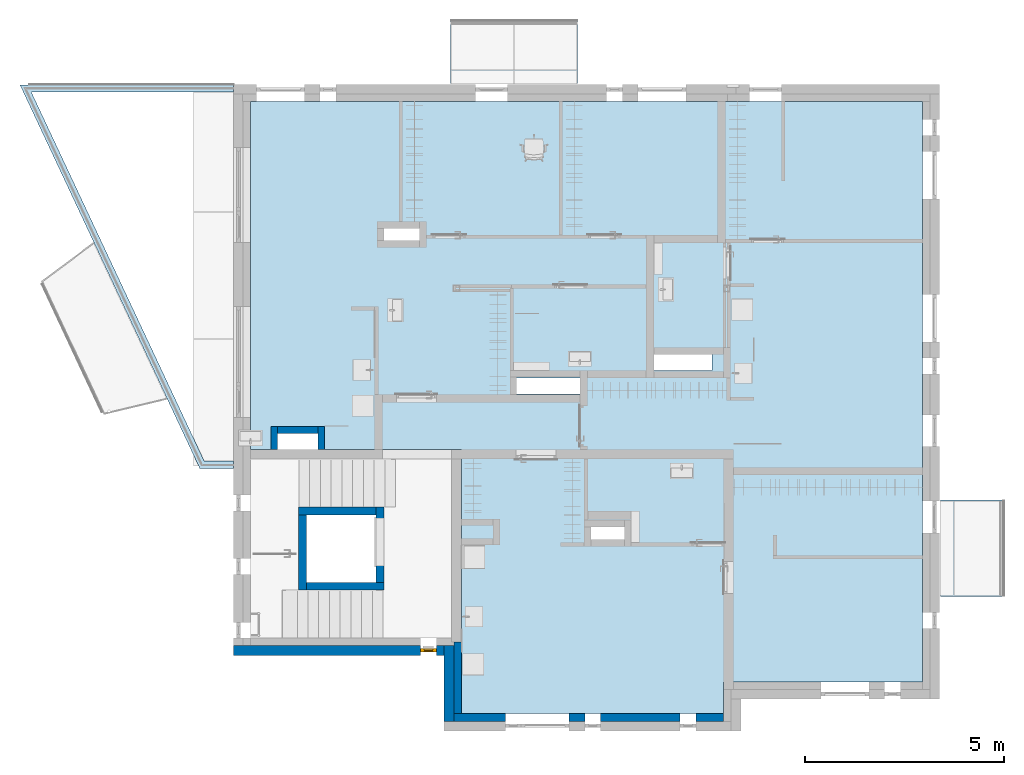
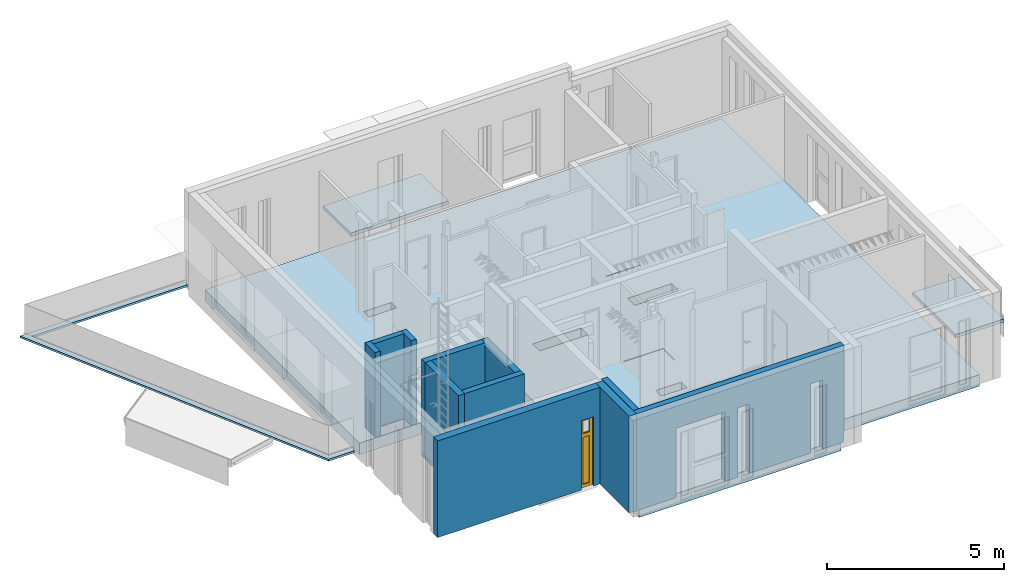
# One storey, part 2 of 42: 11 walls, 4 slabs, 1 window, 12 openings, 1 element without a shape of its own.
"""IFC2X3 building model written with IfcOpenShell, lengths in millimetres."""

from ifc_helpers import new_model, entity, si_unit, converted_unit, direction, frame, frame_2d, origin, origin_2d_with_axis, place, context, subcontext, project, spatial, polyline, rectangle, outline, extrude, faceted_brep, source, transform, mapped, material, material_list, layer, layer_set, layer_usage, type_object, type_shapes, element, fill, aggregate, save


model = new_model("IFC2X3")

# Units and contexts
model_context = context("Model", 3, precision=0.01, world=origin(), true_north=direction((6.123233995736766e-17, 1.0)))
plan_context = context("Plan", 3, precision=0.01, world=origin(), true_north=direction((6.123233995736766e-17, 1.0)))
body_context = subcontext(model_context, "Body", "Model", "MODEL_VIEW")
ifc_project = project(units=[si_unit("LENGTHUNIT", "METRE", prefix="MILLI"), converted_unit("PLANEANGLEUNIT", "DEGREE", entity("IfcPlaneAngleMeasure", 0.017453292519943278), si_unit("PLANEANGLEUNIT", "RADIAN"), dimensions=[0, 0, 0, 0, 0, 0, 0]), si_unit("AREAUNIT", "SQUARE_METRE")], contexts=[model_context, plan_context])

# Site, building, storey
site_placement = place(None, origin())
site = spatial("IfcSite", under=ifc_project, at=site_placement, Name="Default", CompositionType="ELEMENT")
building_placement = place(site_placement, origin())
building = spatial("IfcBuilding", under=site, at=building_placement, CompositionType="ELEMENT")
storey_placement = place(building_placement, frame((0.0, 0.0, 9465.000076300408)))
storey = spatial("IfcBuildingStorey", under=building, at=storey_placement, Name="4K", CompositionType="ELEMENT", Elevation=9465.000076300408)

# Slab, openings
ifc_material_1 = material(Name="_K. Betoon. Armeeritud. Kohtvalu")
ifc_layer_1 = layer(ifc_material_1, 80.0)
ifc_material_2 = material(Name="_K. Soojustus. Mineraalvill")
ifc_layer_2 = layer(ifc_material_2, 30.0)
ifc_material_3 = material(Name="_K. Soojustus. EPS")
ifc_layer_3 = layer(ifc_material_3, 25.0)
ifc_material_4 = material(Name="_K. Betoon. Armeeritud. Monteeritav")
ifc_layer_4 = layer(ifc_material_4, 265.0)
ifc_layer_set_1 = layer_set([ifc_layer_1, ifc_layer_2, ifc_layer_3, ifc_layer_4], Name="Floor:VL-01-A")
ifc_layer_usage_1 = layer_usage(ifc_layer_set_1, "AXIS3", "POSITIVE", 0.0)
slab_type_1 = type_object("IfcSlabType", Name="Floor:VL-01-A", PredefinedType="FLOOR", material=ifc_layer_set_1)
slab_1_placement = place(storey_placement, frame((-0.007990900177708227, 0.0, -420.0)))
slab_1 = element("IfcSlab", 1, at=slab_1_placement, inside=storey, type_object=slab_type_1, material=ifc_layer_usage_1, Name="Floor:VL-01-A", ObjectType="Floor:VL-01-A", PredefinedType="FLOOR", context=body_context, shape_type="SweptSolid", body=[
    extrude(outline(polyline([(-8450.003995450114, 7700.0), (-8450.003995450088, -6900.0), (-3450.003995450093, -6900.0), (-3450.0039954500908, -7700.0), (3144.9981407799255, -7700.0), (3144.9981407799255, -1055.0000405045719), (8450.003995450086, -1055.0000405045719), (8450.003995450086, 7700.0), (-8450.003995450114, 7700.0)])), frame((8450.003995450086, 7700.0, 400.0), z_axis=(0.0, 0.0, -1.0), x_axis=(-1.0, 0.0, 0.0)), (0.0, 0.0, 1.0), 400.0),
])
opening_1_placement = place(slab_1_placement, origin())
element("IfcOpeningElement", 2, at=opening_1_placement, cuts=slab_1, Name="Floor:VL-01-A", ObjectType="Opening", context=body_context, shape_type="SweptSolid", body=[
    extrude(rectangle(XDim=400.0, YDim=1010.0, at=origin_2d_with_axis()), frame((1185.0079909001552, 6850.0, 0.0), z_axis=(0.0, 0.0, 1.0), x_axis=(0.0, 1.0, 0.0)), (0.0, 0.0, 1.0), 400.0),
])
opening_2_placement = place(slab_1_placement, origin())
element("IfcOpeningElement", 3, at=opening_2_placement, cuts=slab_1, Name="Floor:VL-01-A", ObjectType="Opening", context=body_context, shape_type="SweptSolid", body=[
    extrude(rectangle(XDim=319.99999999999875, YDim=839.9999999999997, at=origin_2d_with_axis()), frame((8980.00799090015, 4540.0, 0.0), z_axis=(0.0, 0.0, 1.0), x_axis=(0.0, 1.0, 0.0)), (0.0, 0.0, 1.0), 400.0),
])
opening_3_placement = place(slab_1_placement, origin())
element("IfcOpeningElement", 4, at=opening_3_placement, cuts=slab_1, Name="Floor:VL-01-A", ObjectType="Opening", context=body_context, shape_type="SweptSolid", body=[
    extrude(rectangle(XDim=400.0, YDim=1589.999999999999, at=frame_2d((0.0, 5.684341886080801e-13), x_axis=(1.0, 0.0))), frame((7485.00799090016, 8240.0, 0.0), z_axis=(0.0, 0.0, 1.0), x_axis=(0.0, 1.0, 0.0)), (0.0, 0.0, 1.0), 400.0),
])
opening_4_placement = place(slab_1_placement, origin())
element("IfcOpeningElement", 5, at=opening_4_placement, cuts=slab_1, Name="Floor:VL-01-A", ObjectType="Opening", context=body_context, shape_type="SweptSolid", body=[
    extrude(rectangle(XDim=400.0, YDim=1449.9999999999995, at=origin_2d_with_axis()), frame((10875.00799090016, 8840.0, 0.0), z_axis=(0.0, 0.0, 1.0), x_axis=(0.0, 1.0, 0.0)), (0.0, 0.0, 1.0), 400.0),
])
opening_5_placement = place(slab_1_placement, origin())
element("IfcOpeningElement", 6, at=opening_5_placement, cuts=slab_1, Name="Floor:VL-01-A", ObjectType="Opening", context=body_context, shape_type="SweptSolid", body=[
    extrude(rectangle(XDim=310.000000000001, YDim=900.0000000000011, at=frame_2d((1.0942358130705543e-12, 0.0), x_axis=(1.0, 0.0))), frame((3800.007990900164, 12055.0, 0.0), z_axis=(0.0, 0.0, 1.0), x_axis=(0.0, 1.0, 0.0)), (0.0, 0.0, 1.0), 400.0),
])
opening_6_placement = place(slab_1_placement, frame((0.007990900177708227, 0.0, 400.0)))
element("IfcOpeningElement", 7, at=opening_6_placement, cuts=slab_1, Name="Floor:VL-01-A", ObjectType="Opening", context=body_context, shape_type="SweptSolid", body=[
    extrude(outline(polyline([(-465.4999999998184, -6.916666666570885), (1246.4999999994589, -6.916666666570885), (-315.49999999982, 6.916666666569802), (-465.4999999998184, 6.916666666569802), (-465.4999999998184, -6.916666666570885)])), frame((10615.499999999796, 9210.0, -6.916666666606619), z_axis=(0.0, 1.0, 0.0), x_axis=(1.0, 0.0, 0.0)), (0.0, 0.0, 1.0), 1079.9999999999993),
])
opening_7_placement = place(slab_1_placement, frame((0.007990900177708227, 0.0, 400.0)))
element("IfcOpeningElement", 8, at=opening_7_placement, cuts=slab_1, Name="Floor:VL-01-A", ObjectType="Opening", context=body_context, shape_type="SweptSolid", body=[
    extrude(outline(polyline([(-361.9999898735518, -6.916666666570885), (935.999969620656, -6.916666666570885), (-211.9999898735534, 6.916666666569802), (-361.9999898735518, 6.916666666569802), (-361.9999898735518, -6.916666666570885)])), frame((8483.0, 6037.9999696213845, -6.916666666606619), z_axis=(1.0, 0.0, 0.0), x_axis=(0.0, -1.0, 0.0)), (0.0, 0.0, 1.0), 1299.999999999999),
])

# Roof, slab
ifc_material_5 = material(Name="_K. Katusekate. Rullmaterjal. PVC(1)")
ifc_layer_5 = layer(ifc_material_5, 2.5)
ifc_layer_6 = layer(ifc_material_1, 65.0)
ifc_layer_set_2 = layer_set([ifc_layer_5, ifc_layer_6], Name="Basic Roof:KL-02 2")
roof_placement = place(storey_placement, frame((-5802.7981675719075, 6174.999959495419, 84.9997253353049)))
roof = element("IfcRoof", 9, at=roof_placement, inside=storey, material=ifc_layer_set_2, Name="Basic Roof:KL-02 2", ObjectType="Basic Roof:KL-02 2", ShapeType="NOTDEFINED")
type_product = type_object("IfcTypeProduct", Name="Basic Roof:KL-02 2")
slab_2_placement = place(roof_placement, origin())
slab_2 = element("IfcSlab", 10, at=slab_2_placement, type_object=type_product, material=ifc_layer_set_2, Name="Basic Roof:KL-02 2", ObjectType="Basic Roof:KL-02 2", PredefinedType="ROOF", context=body_context, shape_type="SweptSolid", body=[
    extrude(outline(polyline([(2686.399083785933, -4822.5000202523), (2686.3990837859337, -4642.500020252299), (1949.1138992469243, -4642.500020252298), (-2403.2298670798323, 4642.5000202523), (2686.3990837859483, 4642.500020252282), (2686.399083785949, 4822.500020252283), (-2686.399083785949, 4822.500020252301), (1834.694682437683, -4822.500020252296), (2686.399083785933, -4822.5000202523)])), frame((2686.399083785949, 4822.5000202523, 0.0)), (0.0, 0.0, 1.0), 67.49999999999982),
])
aggregate(roof, [slab_2])

# Slabs
slab_type_2 = type_object("IfcSlabType", Name="HR_Slab_Balcony_v3:Default", PredefinedType="FLOOR", material=ifc_material_4)
slab_3_placement = place(storey_placement, frame((0.0, 0.0, -225.50023803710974)))
element("IfcSlab", 11, at=slab_3_placement, inside=storey, type_object=slab_type_2, Name="HR_Slab_Balcony_v3:Default", ObjectType="HR_Slab_Balcony_v3:Default", PredefinedType="FLOOR", context=body_context, shape_type="SweptSolid", body=[
    extrude(outline(polyline([(-636.2215697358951, 62.61096566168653), (-637.2171002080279, -42.38431479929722), (-604.7185610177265, -42.69245518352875), (-594.6241980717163, -32.78771708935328), (-579.6248722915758, -32.92993572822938), (-569.7201341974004, -43.02429867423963), (944.7117920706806, -57.38364057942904), (945.8495411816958, 62.610965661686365), (865.8531370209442, 63.3694650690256), (865.7119652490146, 62.61096566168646), (-636.2215697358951, 62.61096566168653)])), frame((5031.41658844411, 16795.213397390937, 48.424019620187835), z_axis=(-1.0, 0.0, 0.0), x_axis=(0.0, -0.9999550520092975, 0.00948124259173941)), (0.0, 0.0, -1.0), 3194.999999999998),
])
slab_4_placement = place(storey_placement, frame((0.0, 0.0, -225.50023803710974)))
element("IfcSlab", 12, at=slab_4_placement, inside=storey, type_object=slab_type_2, Name="HR_Slab_Balcony_v3:Default", ObjectType="HR_Slab_Balcony_v3:Default", PredefinedType="FLOOR", context=body_context, shape_type="SweptSolid", body=[
    extrude(outline(polyline([(-945.2133973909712, -71.57598037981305), (-865.2133973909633, -71.57598037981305), (-865.0794234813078, -70.81617658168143), (636.7866026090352, -56.575980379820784), (636.7866026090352, 48.42401962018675), (604.2866026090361, 48.42401962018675), (594.2866026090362, 38.42401962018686), (579.2866026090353, 38.42401962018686), (569.2866026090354, 48.42401962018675), (-945.2133973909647, 48.42401962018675), (-945.2133973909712, -71.57598037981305)])), frame((18295.213397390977, 2952.68658823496, 48.424019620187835), z_axis=(0.0, 1.0, 0.0), x_axis=(1.0, 0.0, 0.0)), (0.0, 0.0, 1.0), 2418.0000000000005),
])

# Walls
ifc_material_6 = material(Name="_K. Väisviimistlus. Krohv. Valge")
ifc_layer_7 = layer(ifc_material_6, 5.0)
ifc_material_7 = material(Name="_K. Müüritis. Väikeplokk. Betoon-õõnesplokk")
ifc_layer_8 = layer(ifc_material_7, 190.00000000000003)
ifc_layer_9 = layer(ifc_material_6, 5.0)
ifc_layer_set_3 = layer_set([ifc_layer_7, ifc_layer_8, ifc_layer_9], Name="Basic Wall:SS-01. 190")
ifc_layer_usage_2 = layer_usage(ifc_layer_set_3, "AXIS2", "NEGATIVE", 100.00000000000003)
wall_type_1 = type_object("IfcWallType", Name="Basic Wall:SS-01. 190", PredefinedType="STANDARD", material=ifc_layer_set_3)
wall_1_placement = place(storey_placement, frame((1199.993534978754, 5099.998433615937, 0.0)))
element("IfcWallStandardCase", 13, at=wall_1_placement, inside=storey, type_object=wall_type_1, material=ifc_layer_usage_2, Name="Basic Wall:SS-01. 190", ObjectType="Basic Wall:SS-01. 190", context=body_context, shape_type="SweptSolid", body=[
    extrude(rectangle(XDim=1949.9999999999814, YDim=200.0, at=frame_2d((974.9999999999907, 0.0), x_axis=(-1.0, 0.0))), origin(), (0.0, 0.0, 1.0), 3345.9999999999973),
])
ifc_layer_usage_3 = layer_usage(ifc_layer_set_3, "AXIS2", "NEGATIVE", 100.00000000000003)
wall_2_placement = place(storey_placement, frame((1299.993534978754, 3109.993855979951, 0.0), z_axis=(0.0, 0.0, 1.0), x_axis=(0.0, 1.0, 0.0)))
element("IfcWallStandardCase", 14, at=wall_2_placement, inside=storey, type_object=wall_type_1, material=ifc_layer_usage_3, Name="Basic Wall:SS-01. 190", ObjectType="Basic Wall:SS-01. 190", context=body_context, shape_type="SweptSolid", body=[
    extrude(rectangle(XDim=1890.0045776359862, YDim=200.0, at=frame_2d((945.0022888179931, 0.0), x_axis=(-1.0, 0.0))), origin(), (0.0, 0.0, 1.0), 3345.9999999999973),
])
ifc_layer_usage_4 = layer_usage(ifc_layer_set_3, "AXIS2", "NEGATIVE", 100.00000000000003)
wall_3_placement = place(storey_placement, frame((3249.9935349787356, 5199.998433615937, 0.0), z_axis=(0.0, 0.0, 1.0), x_axis=(0.0, -1.0, 0.0)))
element("IfcWallStandardCase", 15, at=wall_3_placement, inside=storey, type_object=wall_type_1, material=ifc_layer_usage_4, Name="Basic Wall:SS-01. 190", ObjectType="Basic Wall:SS-01. 190", context=body_context, shape_type="SweptSolid", body=[
    extrude(rectangle(XDim=1900.0045776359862, YDim=200.0, at=frame_2d((950.0022888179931, 0.0), x_axis=(-1.0, 0.0))), origin(), (0.0, 0.0, 1.0), 3345.9999999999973),
])
ifc_layer_10 = layer(ifc_material_7, 190.00000000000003)
ifc_layer_set_4 = layer_set([ifc_layer_10], Name="Basic Wall:Columbia 190mm")
ifc_layer_usage_5 = layer_usage(ifc_layer_set_4, "AXIS2", "NEGATIVE", 95.00000000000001)
wall_type_2 = type_object("IfcWallType", Name="Basic Wall:Columbia 190mm", PredefinedType="STANDARD", material=ifc_layer_set_4)
wall_4_placement = place(storey_placement, frame((3349.9935349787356, 3204.993855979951, 0.0), z_axis=(0.0, 0.0, 1.0), x_axis=(-1.0, 0.0, 0.0)))
element("IfcWallStandardCase", 16, at=wall_4_placement, inside=storey, type_object=wall_type_2, material=ifc_layer_usage_5, Name="Basic Wall:Columbia 190mm", ObjectType="Basic Wall:Columbia 190mm", context=body_context, shape_type="SweptSolid", body=[
    extrude(rectangle(XDim=1949.9999999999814, YDim=190.0000000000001, at=frame_2d((974.9999999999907, 0.0), x_axis=(-1.0, 0.0))), origin(), (0.0, 0.0, 1.0), 3345.9999999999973),
])

# Wall, openings
ifc_layer_usage_6 = layer_usage(ifc_layer_set_4, "AXIS2", "NEGATIVE", 95.00000000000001)
wall_5_placement = place(storey_placement, frame((11900.0, -95.0, 0.0), z_axis=(0.0, 0.0, 1.0), x_axis=(-1.0, 0.0, 0.0)))
wall_5 = element("IfcWallStandardCase", 17, at=wall_5_placement, inside=storey, type_object=wall_type_2, material=ifc_layer_usage_6, Name="Basic Wall:Columbia 190mm", ObjectType="Basic Wall:Columbia 190mm", context=body_context, shape_type="SweptSolid", body=[
    extrude(rectangle(XDim=6785.002136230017, YDim=190.00000000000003, at=frame_2d((3392.5010681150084, 0.0), x_axis=(1.0, 0.0))), origin(), (0.0, 0.0, 1.0), 3345.9999999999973),
])
opening_8_placement = place(wall_5_placement, frame((11900.0, -95.0, 0.0)))
element("IfcOpeningElement", 18, at=opening_8_placement, cuts=wall_5, Name="Basic Wall:Columbia 190mm", ObjectType="Opening", context=body_context, shape_type="Brep", body=[
    faceted_brep([(-10800.0, 450.0, 2400.0), (-10800.0, -244.0, 2400.0), (-10800.0, -244.0, 0.0), (-10800.0, 340.0, 0.0), (-10800.0, 350.0, 0.0), (-10800.0, 450.0, 0.0), (-11200.0, 450.0, 2400.0), (-11200.0, -244.0, 2400.0), (-11200.0, 450.0, 0.0), (-11200.0, 350.0, 0.0), (-11200.0, 340.0, 0.0), (-11200.0, -244.0, 0.0)], [[[0, 1, 2, 3, 4, 5]], [[6, 7, 1, 0]], [[8, 9, 10, 11, 7, 6]], [[5, 4, 3, 2, 11, 10, 9, 8]], [[6, 0, 5, 8]], [[7, 11, 2, 1]]]),
])
opening_9_placement = place(wall_5_placement, frame((11900.0, -95.0, 0.0)))
element("IfcOpeningElement", 19, at=opening_9_placement, cuts=wall_5, Name="Basic Wall:Columbia 190mm", ObjectType="Opening", context=body_context, shape_type="Brep", body=[
    faceted_brep([(-8405.0, 450.0, 2400.0), (-8405.0, -244.0, 2400.0), (-8405.0, -244.0, 0.0), (-8405.0, 340.0, 0.0), (-8405.0, 350.0, 0.0), (-8405.0, 450.0, 0.0), (-8805.0, 450.0, 2400.0), (-8805.0, -244.0, 2400.0), (-8805.0, 450.0, 0.0), (-8805.0, 350.0, 0.0), (-8805.0, 340.0, 0.0), (-8805.0, -244.0, 0.0)], [[[0, 1, 2, 3, 4, 5]], [[6, 7, 1, 0]], [[8, 9, 10, 11, 7, 6]], [[5, 4, 3, 2, 11, 10, 9, 8]], [[6, 0, 5, 8]], [[7, 11, 2, 1]]]),
])
opening_10_placement = place(wall_5_placement, frame((11900.0, -95.0, 0.0)))
element("IfcOpeningElement", 20, at=opening_10_placement, cuts=wall_5, Name="Basic Wall:Columbia 190mm", ObjectType="Opening", context=body_context, shape_type="Brep", body=[
    faceted_brep([(-6805.0, 450.0, 2400.0), (-6805.0, -244.0, 2400.0), (-6805.0, -244.0, 0.0), (-6805.0, 340.0, 0.0), (-6805.0, 350.0, 0.0), (-6805.0, 450.0, 0.0), (-8005.0, 450.0, 2400.0), (-8005.0, -244.0, 2400.0), (-8005.0, 450.0, 0.0), (-8005.0, 350.0, 0.0), (-8005.0, 340.0, 0.0), (-8005.0, -244.0, 0.0)], [[[0, 1, 2, 3, 4, 5]], [[6, 7, 1, 0]], [[8, 9, 10, 11, 7, 6]], [[5, 4, 3, 2, 11, 10, 9, 8]], [[6, 0, 5, 8]], [[7, 11, 2, 1]]]),
])
opening_11_placement = place(wall_5_placement, frame((11900.0, -95.0, 0.0)))
element("IfcOpeningElement", 21, at=opening_11_placement, cuts=wall_5, Name="Basic Wall:Columbia 190mm", ObjectType="Opening", context=body_context, shape_type="Brep", body=[
    faceted_brep([(-6405.0, 450.0, 2400.0), (-6405.0, -244.0, 2400.0), (-6405.0, -244.0, 0.0), (-6405.0, 340.0, 0.0), (-6405.0, 350.0, 0.0), (-6405.0, 450.0, 0.0), (-6805.0, 450.0, 2400.0), (-6805.0, -244.0, 2400.0), (-6805.0, 450.0, 0.0), (-6805.0, 350.0, 0.0), (-6805.0, 340.0, 0.0), (-6805.0, -244.0, 0.0)], [[[0, 1, 2, 3, 4, 5]], [[6, 7, 1, 0]], [[8, 9, 10, 11, 7, 6]], [[5, 4, 3, 2, 11, 10, 9, 8]], [[6, 0, 5, 8]], [[7, 11, 2, 1]]]),
])

# Walls
ifc_layer_usage_7 = layer_usage(ifc_layer_set_4, "AXIS2", "NEGATIVE", 95.00000000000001)
wall_6_placement = place(storey_placement, frame((5209.997863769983, 0.0, 0.0), z_axis=(0.0, 0.0, 1.0), x_axis=(0.0, 1.0, 0.0)))
element("IfcWallStandardCase", 22, at=wall_6_placement, inside=storey, type_object=wall_type_2, material=ifc_layer_usage_7, Name="Basic Wall:Columbia 190mm", ObjectType="Basic Wall:Columbia 190mm", context=body_context, shape_type="SweptSolid", body=[
    extrude(rectangle(XDim=1804.9999999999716, YDim=190.0000000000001, at=frame_2d((902.4999999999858, -8.526512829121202e-14), x_axis=(-1.0, 0.0))), origin(), (0.0, 0.0, 1.0), 3345.9999999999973),
])
ifc_layer_11 = layer(ifc_material_6, 10.0)
ifc_material_8 = material(Name="_K. Soojustus. EPS Silver")
ifc_layer_12 = layer(ifc_material_8, 230.0)
ifc_layer_set_5 = layer_set([ifc_layer_11, ifc_layer_12], Name="Basic Wall:VS-01")
ifc_layer_usage_8 = layer_usage(ifc_layer_set_5, "AXIS2", "NEGATIVE", 120.0)
wall_type_3 = type_object("IfcWallType", Name="Basic Wall:VS-01", PredefinedType="STANDARD", material=ifc_layer_set_5)
wall_7_placement = place(storey_placement, frame((4990.0, -190.0, 0.0), z_axis=(0.0, 0.0, 1.0), x_axis=(0.0, 1.0, 0.0)))
element("IfcWallStandardCase", 23, at=wall_7_placement, inside=storey, type_object=wall_type_3, material=ifc_layer_usage_8, Name="Basic Wall:VS-01", ObjectType="Basic Wall:VS-01", context=body_context, shape_type="SweptSolid", body=[
    extrude(rectangle(XDim=1899.999999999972, YDim=239.99999999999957, at=frame_2d((949.999999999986, 8.526512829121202e-14), x_axis=(-1.0, 0.0))), origin(), (0.0, 0.0, 1.0), 3345.9999999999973),
])

# Wall, opening, window
ifc_layer_usage_9 = layer_usage(ifc_layer_set_5, "AXIS2", "NEGATIVE", 120.0)
wall_8_placement = place(storey_placement, frame((4870.0, 1590.0, 0.0), z_axis=(0.0, 0.0, 1.0), x_axis=(-1.0, 0.0, 0.0)))
wall_8 = element("IfcWallStandardCase", 24, at=wall_8_placement, inside=storey, type_object=wall_type_3, material=ifc_layer_usage_9, Name="Basic Wall:VS-01", ObjectType="Basic Wall:VS-01", context=body_context, shape_type="SweptSolid", body=[
    extrude(rectangle(XDim=5300.000000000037, YDim=240.0000000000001, at=frame_2d((2650.0000000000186, -6.394884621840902e-14), x_axis=(-1.0, 0.0))), origin(), (0.0, 0.0, 1.0), 3345.9999999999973),
])
opening_12_placement = place(wall_8_placement, frame((4870.0, 1590.0, 0.0), z_axis=(0.0, 0.0, 1.0), x_axis=(-1.0, 0.0, 0.0)))
opening_12 = element("IfcOpeningElement", 25, at=opening_12_placement, cuts=wall_8, Name="Basic Wall:VS-01", ObjectType="Opening", context=body_context, shape_type="Brep", body=[
    faceted_brep([(4270.0, 1450.0, 2400.0), (4270.0, 2144.0, 2400.0), (4270.0, 2144.0, 0.0), (4270.0, 1560.0, 0.0), (4270.0, 1550.0, 0.0), (4270.0, 1450.0, 0.0), (4670.0, 1450.0, 2400.0), (4670.0, 2144.0, 2400.0), (4670.0, 1450.0, 0.0), (4670.0, 1550.0, 0.0), (4670.0, 1560.0, 0.0), (4670.0, 2144.0, 0.0)], [[[0, 1, 2, 3, 4, 5]], [[6, 7, 1, 0]], [[8, 9, 10, 11, 7, 6]], [[5, 4, 3, 2, 11, 10, 9, 8]], [[6, 0, 5, 8]], [[7, 11, 2, 1]]]),
])
ifc_material_9 = material(Name="_K. Avatäited. Raam. PVC. Valge")
ifc_material_10 = material(Name="_K. Klaas. Pakett")
ifc_material_11 = material(Name="_K. Avatäited. Raam. PVC. RAL9005")
ifc_material_list = material_list([ifc_material_9, ifc_material_10, ifc_material_11])
window_style = type_object("IfcWindowStyle", Name="HR_Window_Generic_Rectangle_1x2:A-15.400x2400.ma", ConstructionType="NOTDEFINED", OperationType="NOTDEFINED", ParameterTakesPrecedence=False, Sizeable=False, material=ifc_material_list)
shared_shape = source(origin(), body_context, "Body", "Brep", [
    faceted_brep([(88.0, -194.0, 1739.0), (312.0, -194.0, 1739.0), (312.0, -194.0, 108.0), (88.0, -194.0, 108.0), (342.0, -194.0, 1769.0), (58.0, -194.0, 1769.0), (58.0, -194.0, 78.0), (342.0, -194.0, 78.0), (88.0, -159.0, 1739.0), (88.0, -159.0, 108.0), (312.0, -159.0, 108.0), (342.0, -159.0, 1769.0), (342.0, -159.0, 78.0), (58.0, -159.0, 78.0), (58.0, -159.0, 1769.0), (312.0, -159.0, 1739.0)], [[[0, 1, 2, 3], [4, 5, 6, 7]], [[8, 0, 3, 9]], [[9, 3, 2, 10]], [[11, 12, 13, 14], [15, 8, 9, 10]], [[1, 15, 10, 2]], [[6, 5, 14, 13]], [[7, 6, 13, 12]], [[4, 7, 12, 11]], [[15, 1, 0, 8]], [[5, 4, 11, 14]]], outer=[[False, True], [True], [True], [True, False], [True], [True], [True], [True], [True], [True]]),
    faceted_brep([(342.0, -159.0, 1769.0), (58.0, -159.0, 1769.0), (58.0, -159.0, 78.0), (342.0, -159.0, 78.0), (58.0, -134.0, 1769.0), (58.0, -134.0, 78.0), (342.0, -134.0, 78.0), (342.0, -134.0, 1769.0)], [[[0, 1, 2, 3]], [[2, 1, 4, 5]], [[3, 2, 5, 6]], [[0, 3, 6, 7]], [[7, 6, 5, 4]], [[1, 0, 7, 4]]]),
    faceted_brep([(58.0, -134.0, 2342.0), (58.0, -134.0, 1831.0), (342.0, -134.0, 1831.0), (342.0, -134.0, 2342.0), (88.0, -134.0, 2312.0), (312.0, -134.0, 2312.0), (312.0, -134.0, 1861.0), (88.0, -134.0, 1861.0), (342.0, -134.0, 1769.0), (342.0, -134.0, 78.0), (342.0, -194.0, 78.0), (342.0, -194.0, 1769.0), (58.0, -134.0, 78.0), (58.0, -134.0, 1769.0), (58.0, -194.0, 1769.0), (58.0, -194.0, 78.0), (312.0, -100.0, 108.0), (88.0, -100.0, 108.0), (88.0, -134.0, 108.0), (312.0, -134.0, 108.0), (88.0, -100.0, 1739.0), (88.0, -134.0, 1739.0), (312.0, -100.0, 1739.0), (312.0, -134.0, 1739.0), (400.0, -194.0, 2400.0), (0.0, -194.0, 2400.0), (0.0, -194.0, 30.0), (400.0, -194.0, 30.0), (58.0, -194.0, 2342.0), (342.0, -194.0, 2342.0), (342.0, -194.0, 1831.0), (58.0, -194.0, 1831.0), (0.0, -100.0, 2400.0), (0.0, -100.0, 30.0), (0.0, -110.0, 30.0), (0.0, -110.0, 0.0), (0.0, -184.0, 0.0), (0.0, -184.0, 30.0), (400.0, -184.0, 30.0), (400.0, -100.0, 2400.0), (400.0, -184.0, 0.0), (400.0, -110.0, 0.0), (400.0, -110.0, 30.0), (400.0, -100.0, 30.0), (88.0, -100.0, 2312.0), (88.0, -100.0, 1861.0), (312.0, -100.0, 1861.0), (312.0, -100.0, 2312.0)], [[[0, 1, 2, 3], [4, 5, 6, 7]], [[8, 9, 10, 11]], [[12, 13, 14, 15]], [[9, 12, 15, 10]], [[16, 17, 18, 19]], [[17, 20, 21, 18]], [[22, 16, 19, 23]], [[11, 10, 15, 14], [24, 25, 26, 27], [28, 29, 30, 31]], [[25, 32, 33, 34, 35, 36, 37, 26]], [[37, 38, 27, 26]], [[39, 24, 27, 38, 40, 41, 42, 43]], [[17, 16, 22, 20], [32, 39, 43, 33], [44, 45, 46, 47]], [[42, 34, 33, 43]], [[34, 42, 41, 35]], [[35, 41, 40, 36]], [[38, 37, 36, 40]], [[25, 24, 39, 32]], [[44, 47, 5, 4]], [[47, 46, 6, 5]], [[45, 44, 4, 7]], [[0, 3, 29, 28]], [[3, 2, 30, 29]], [[13, 8, 11, 14]], [[1, 0, 28, 31]], [[2, 1, 31, 30]], [[46, 45, 7, 6]], [[20, 22, 23, 21]], [[9, 8, 13, 12], [19, 18, 21, 23]]], outer=[[True, False], [True], [True], [True], [True], [True], [True], [False, True, False], [True], [True], [True], [False, True, False], [True], [True], [True], [True], [True], [True], [True], [True], [True], [True], [True], [True], [True], [True], [True], [True, False]]),
])
type_shapes(window_style, [shared_shape])
window_placement = place(opening_12_placement, frame((4670.0, 1450.0, 0.0), z_axis=(0.0, 0.0, 1.0), x_axis=(-1.0, 0.0, 0.0)))
window = element("IfcWindow", 26, at=window_placement, inside=storey, type_object=window_style, material=ifc_material_list, Name="HR_Window_Generic_Rectangle_1x2:A-15.400x2400.ma", ObjectType="HR_Window_Generic_Rectangle_1x2:A-15.400x2400.ma", OverallHeight=2465.0000000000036, OverallWidth=400.00000000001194, context=body_context, shape_type="MappedRepresentation", body=[
    mapped(shared_shape, transform((0.0, 0.0, 0.0), scale=1.0)),
])
fill(opening_12, window)

# Walls
ifc_layer_13 = layer(ifc_material_6, 10.0)
ifc_material_12 = material(Name="_K. Müüritis. Väikeplokk. Kergkruusplokk")
ifc_layer_14 = layer(ifc_material_12, 150.0)
ifc_layer_15 = layer(ifc_material_6, 10.0)
ifc_layer_set_6 = layer_set([ifc_layer_13, ifc_layer_14, ifc_layer_15], Name="Basic Wall:SS-03. Šahti sein")
ifc_layer_usage_10 = layer_usage(ifc_layer_set_6, "AXIS2", "NEGATIVE", 85.00000000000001)
wall_type_4 = type_object("IfcWallType", Name="Basic Wall:SS-03. Šahti sein", PredefinedType="STANDARD", material=ifc_layer_set_6)
wall_9_placement = place(storey_placement, frame((680.0, 7135.0, 0.0)))
element("IfcWallStandardCase", 27, at=wall_9_placement, inside=storey, type_object=wall_type_4, material=ifc_layer_usage_10, Name="Basic Wall:SS-03. Šahti sein", ObjectType="Basic Wall:SS-03. Šahti sein", context=body_context, shape_type="SweptSolid", body=[
    extrude(rectangle(XDim=1010.0000000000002, YDim=170.00000000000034, at=frame_2d((505.0000000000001, 0.0), x_axis=(-1.0, 0.0))), origin(), (0.0, 0.0, 1.0), 2925.999923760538),
])
ifc_layer_usage_11 = layer_usage(ifc_layer_set_6, "AXIS2", "NEGATIVE", 85.00000000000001)
wall_10_placement = place(storey_placement, frame((1775.0, 7220.0, 0.0), z_axis=(0.0, 0.0, 1.0), x_axis=(0.0, -1.0, 0.0)))
element("IfcWallStandardCase", 28, at=wall_10_placement, inside=storey, type_object=wall_type_4, material=ifc_layer_usage_11, Name="Basic Wall:SS-03. Šahti sein", ObjectType="Basic Wall:SS-03. Šahti sein", context=body_context, shape_type="SweptSolid", body=[
    extrude(rectangle(XDim=575.0000405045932, YDim=169.99999999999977, at=frame_2d((287.5000202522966, 1.1368683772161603e-13), x_axis=(-1.0, 0.0))), origin(), (0.0, 0.0, 1.0), 2925.999923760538),
])
ifc_layer_usage_12 = layer_usage(ifc_layer_set_6, "AXIS2", "POSITIVE", -85.00000000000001)
wall_11_placement = place(storey_placement, frame((595.0, 7220.0, 0.0), z_axis=(0.0, 0.0, 1.0), x_axis=(0.0, -1.0, 0.0)))
element("IfcWallStandardCase", 29, at=wall_11_placement, inside=storey, type_object=wall_type_4, material=ifc_layer_usage_12, Name="Basic Wall:SS-03. Šahti sein", ObjectType="Basic Wall:SS-03. Šahti sein", context=body_context, shape_type="SweptSolid", body=[
    extrude(rectangle(XDim=575.0000405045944, YDim=170.0, at=frame_2d((287.5000202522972, -2.1316282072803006e-14), x_axis=(-1.0, 0.0))), origin(), (0.0, 0.0, 1.0), 2925.999923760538),
])

save(model, "model.ifc")
